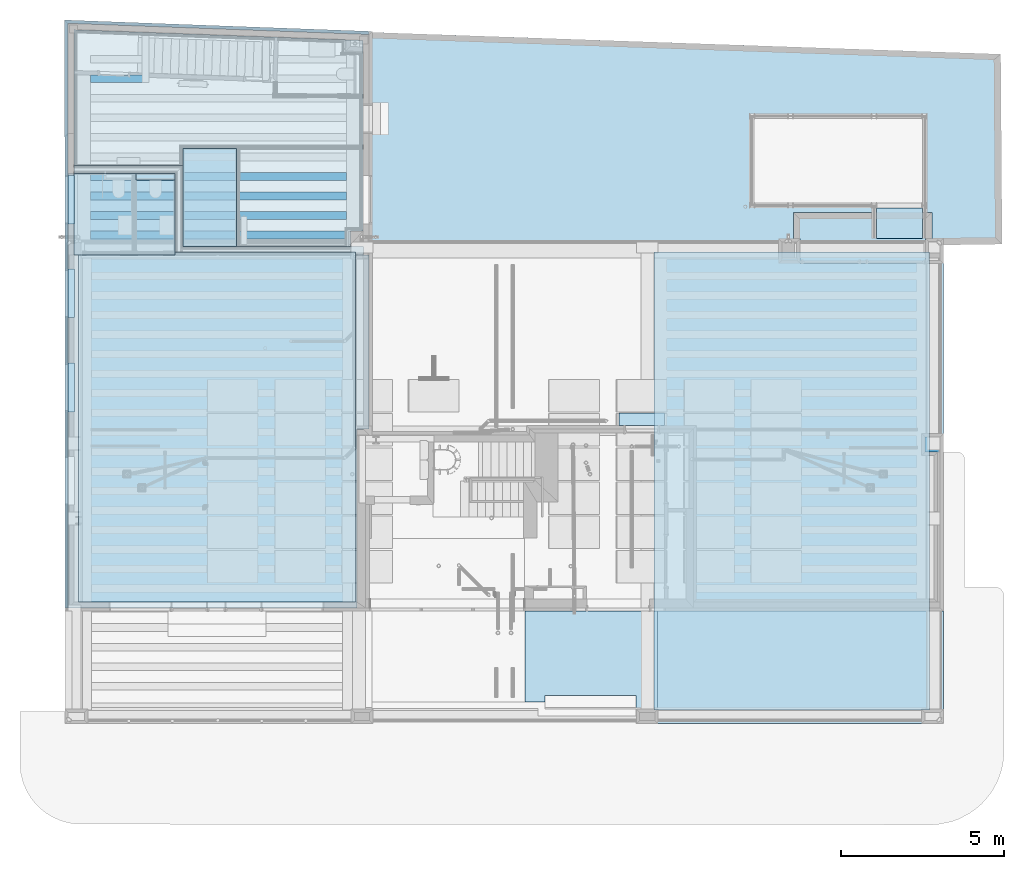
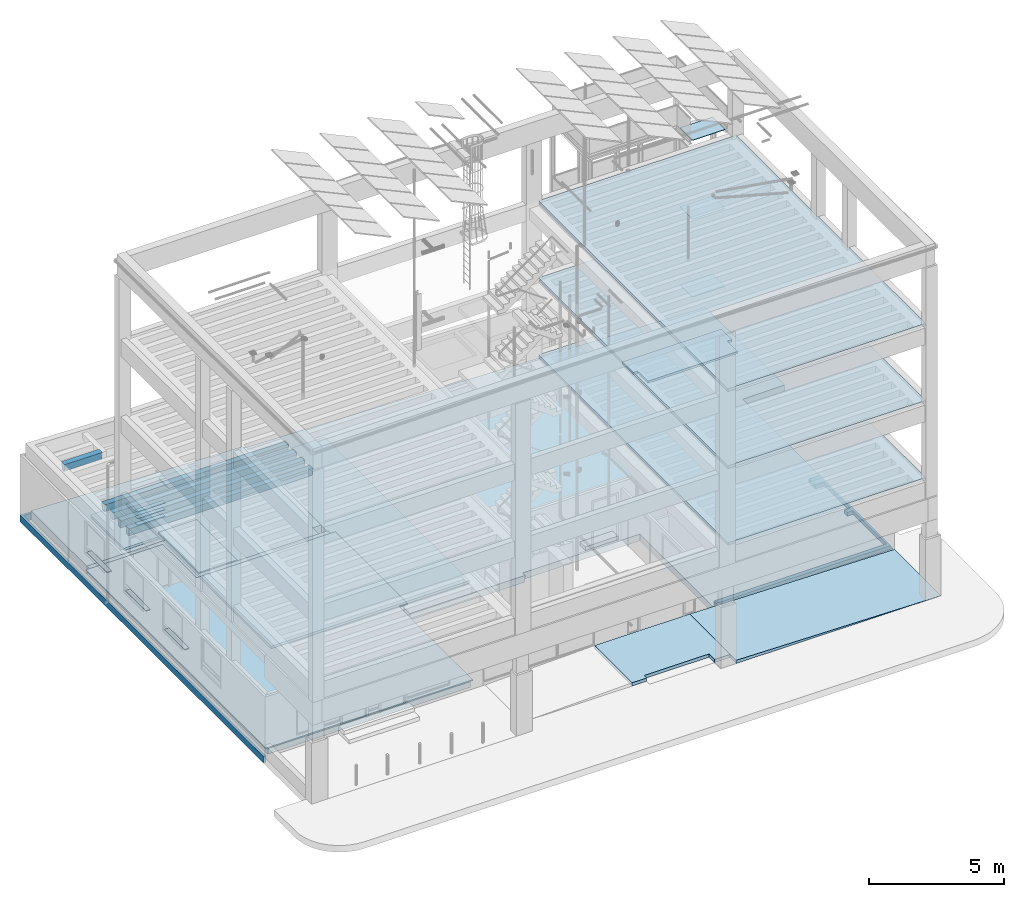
# One storey, part 19 of 108: 37 slabs.
"""IFC2X3 building model written with IfcOpenShell, lengths in metres."""

import ifcopenshell
import ifcopenshell.guid

model = None  # the IFC model being written
_history = None  # IfcOwnerHistory: only IFC2X3 demands one
_inside = {}  # id of a spatial element -> (the spatial element, [elements in it])
_under = {}  # id of a project, library or spatial element -> (it, [spatial elements below it])
_declared = {}  # id of a project -> (the project, [libraries it declares])
_typed = {}  # id of a type object -> (the type object, [elements of that type])
_made_of = {}  # id of a material, layer set ... -> (it, [elements and type objects made of it])


def new_model(schema):
    """Start an empty IFC model of exactly this schema.

    Asked for "IFC4X3", IfcOpenShell would pick the latest addendum, in which some entities
    have other attributes; the version numbers below select the first issue.
    IFC2X3 requires an IfcOwnerHistory on every rooted entity: one is made here for all.
    """
    global model, _history
    if schema == "IFC4X3":
        model = ifcopenshell.file(schema_version=(4, 3, 0, 0))
    else:
        model = ifcopenshell.file(schema=schema)
    _inside.clear()
    _under.clear()
    _declared.clear()
    _typed.clear()
    _made_of.clear()
    _history = None
    if model.schema == "IFC2X3":
        org = make("IfcOrganization", Name="unknown")
        user = make(
            "IfcPersonAndOrganization",
            ThePerson=make("IfcPerson", FamilyName="unknown"),
            TheOrganization=org,
        )
        app = make(
            "IfcApplication",
            ApplicationDeveloper=org,
            Version="unknown",
            ApplicationFullName="unknown",
            ApplicationIdentifier="unknown",
        )
        _history = make(
            "IfcOwnerHistory",
            OwningUser=user,
            OwningApplication=app,
            ChangeAction="ADDED",
            CreationDate=0,
        )
    return model


def make(cls, **values):
    """One entity of the class cls with the attributes given. An attribute that is None is left unset."""
    return model.create_entity(
        cls, **{name: value for name, value in values.items() if value is not None}
    )


def entity(cls, *values):
    """Any entity or typed value of the class cls, its attributes in the order of the schema. None: left unset."""
    e = model.create_entity(cls)
    for i, value in enumerate(values):
        if value is not None:
            e[i] = value
    return e


def rooted(cls, **values):
    """An entity with a GlobalId (a new one), such as an element, a storey or a relation."""
    return make(cls, GlobalId=ifcopenshell.guid.new(), OwnerHistory=_history, **values)


def si_unit(unit_type, name, prefix=None):
    """IfcSIUnit, for example si_unit("LENGTHUNIT", "METRE", prefix="MILLI")."""
    return make("IfcSIUnit", UnitType=unit_type, Prefix=prefix, Name=name)


def converted_unit(unit_type, name, factor, base, dimensions=None, offset=None):
    """IfcConversionBasedUnit, such as the inch: factor (a typed value) times the base unit."""
    return make(
        "IfcConversionBasedUnit"
        if offset is None
        else "IfcConversionBasedUnitWithOffset",
        ConversionOffset=offset,
        Dimensions=None
        if dimensions is None
        else entity("IfcDimensionalExponents", *dimensions),
        UnitType=unit_type,
        Name=name,
        ConversionFactor=make(
            "IfcMeasureWithUnit", ValueComponent=factor, UnitComponent=base
        ),
    )


def derived_unit(unit_type, elements):
    """IfcDerivedUnit: a product of units, each with its exponent."""
    return make(
        "IfcDerivedUnit",
        Elements=[
            make("IfcDerivedUnitElement", Unit=unit, Exponent=power)
            for unit, power in elements
        ],
        UnitType=unit_type,
    )


def money_unit(currency):
    """IfcMonetaryUnit."""
    return make("IfcMonetaryUnit", Currency=currency)


def assignment(units):
    """IfcUnitAssignment: the units of a project."""
    return None if units is None else make("IfcUnitAssignment", Units=units)


def point(xyz):
    """IfcCartesianPoint."""
    return None if xyz is None else make("IfcCartesianPoint", Coordinates=xyz)


def direction(xyz):
    """IfcDirection."""
    return None if xyz is None else make("IfcDirection", DirectionRatios=xyz)


def frame(location, z_axis=None, x_axis=None):
    """IfcAxis2Placement3D, a coordinate frame: its origin and axes. An axis left out is left unset."""
    return make(
        "IfcAxis2Placement3D",
        Location=point(location),
        Axis=direction(z_axis),
        RefDirection=direction(x_axis),
    )


def origin_with_axes():
    """The frame at (0, 0, 0) with the z axis (0, 0, 1) and the x axis (1, 0, 0) written out."""
    return frame((0.0, 0.0, 0.0), z_axis=(0.0, 0.0, 1.0), x_axis=(1.0, 0.0, 0.0))


def place(relative_to, where):
    """IfcLocalPlacement: puts the frame where relative to a parent placement (None: the world)."""
    return make(
        "IfcLocalPlacement", PlacementRelTo=relative_to, RelativePlacement=where
    )


def context(
    kind, dimensions, precision=None, world=None, true_north=None, identifier=None
):
    """IfcGeometricRepresentationContext, for example the 3D "Model" context."""
    return make(
        "IfcGeometricRepresentationContext",
        ContextIdentifier=identifier,
        ContextType=kind,
        CoordinateSpaceDimension=dimensions,
        Precision=precision,
        WorldCoordinateSystem=world,
        TrueNorth=true_north,
    )


def subcontext(parent, identifier, kind, view, scale=None):
    """IfcGeometricRepresentationSubContext, for example "Body" below "Model"."""
    return make(
        "IfcGeometricRepresentationSubContext",
        ContextIdentifier=identifier,
        ContextType=kind,
        ParentContext=parent,
        TargetScale=scale,
        TargetView=view,
    )


def project(units=None, contexts=None):
    """IfcProject with its units and contexts."""
    return rooted(
        "IfcProject",
        Name="project",
        RepresentationContexts=contexts,
        UnitsInContext=assignment(units),
    )


def spatial(cls, under=None, at=None, **own):
    """A site, building, storey or space (cls), placed at a placement, below another one or the project."""
    s = rooted(cls, ObjectPlacement=at, **own)
    if under is not None:
        _under.setdefault(under.id(), (under, []))[1].append(s)
    return s


def faces_of(points, faces, orient=None, outer=None):
    """IfcFace entities. A face is a list of loops; a loop is a list of indices into points, from 0.

    orient and outer hold one flag for each loop. By default every Orientation is true, the
    first loop of a face is its IfcFaceOuterBound and the others are IfcFaceBound.
    """
    made = []
    for i, loops in enumerate(faces):
        bounds = []
        for j, loop in enumerate(loops):
            is_outer = j == 0 if outer is None else outer[i][j]
            bounds.append(
                make(
                    "IfcFaceOuterBound" if is_outer else "IfcFaceBound",
                    Bound=make("IfcPolyLoop", Polygon=[points[k] for k in loop]),
                    Orientation=True if orient is None else orient[i][j],
                )
            )
        made.append(make("IfcFace", Bounds=bounds))
    return made


def faceted_brep(points, faces, orient=None, outer=None, voids=None):
    """IfcFacetedBrep: a solid bounded by flat faces; with voids (closed shells), ...WithVoids."""
    shared = [point(p) for p in points]
    hull = make("IfcClosedShell", CfsFaces=faces_of(shared, faces, orient, outer))
    if voids is None:
        return make("IfcFacetedBrep", Outer=hull)
    return make(
        "IfcFacetedBrepWithVoids",
        Outer=hull,
        Voids=[
            make(cls, CfsFaces=faces_of(shared, fs, o, b)) for cls, fs, o, b in voids
        ],
    )


def shape(context_of_items, identifier, shape_type, items):
    """IfcShapeRepresentation: the items that make up one representation, for example the "Body"."""
    return make(
        "IfcShapeRepresentation",
        ContextOfItems=context_of_items,
        RepresentationIdentifier=identifier,
        RepresentationType=shape_type,
        Items=items,
    )


def material(Name=None, Category=None):
    """IfcMaterial."""
    return make("IfcMaterial", Name=Name, Category=Category)


def made_of(thing, what):
    """Note that an element or type object is made of a material, layer set ...; save() writes the relation."""
    if what is not None:
        _made_of.setdefault(what.id(), (what, []))[1].append(thing)
    return thing


def type_object(cls, material=None, **own):
    """A type object (cls), such as IfcWallType, which elements share."""
    return made_of(rooted(cls, **own), material)


def element(
    cls,
    number,
    at=None,
    inside=None,
    cuts=None,
    type_object=None,
    material=None,
    context=None,
    identifier="Body",
    shape_type=None,
    held_by="IfcProductDefinitionShape",
    body=None,
    shapes=None,
    **own,
):
    """One element of the class cls, such as IfcWall. Its Tag is "e" and its number.

    at: its placement. inside: the storey or other place that contains it. cuts: it is an
    opening in that element (IfcRelVoidsElement). A single representation is given by context,
    identifier, shape_type and body (its items); several are given by shapes. held_by: the class
    of the entity that holds the representations. save() writes the other relations.
    """
    e = rooted(cls, Tag="e%d" % number, ObjectPlacement=at, **own)
    if body is not None:
        shapes = [shape(context, identifier, shape_type, body)]
    if shapes is not None:
        e.Representation = make(held_by, Representations=shapes)
    if inside is not None:
        _inside.setdefault(inside.id(), (inside, []))[1].append(e)
    if cuts is not None:
        rooted(
            "IfcRelVoidsElement", RelatingBuildingElement=cuts, RelatedOpeningElement=e
        )
    if type_object is not None:
        _typed.setdefault(type_object.id(), (type_object, []))[1].append(e)
    return made_of(e, material)


def aggregate(whole, parts):
    """IfcRelAggregates: a whole, such as a stair, and the parts it consists of."""
    return rooted("IfcRelAggregates", RelatingObject=whole, RelatedObjects=parts)


def save(model, path):
    """Write the relations noted so far, then the file.

    IfcRelAggregates (storeys below a building ...), IfcRelContainedInSpatialStructure (elements
    in a storey), IfcRelDefinesByType, IfcRelAssociatesMaterial and IfcRelDeclares: one each for
    every whole, place, type object, material and project.
    """
    for whole, parts in _under.values():
        aggregate(whole, parts)
    for where, things in _inside.values():
        rooted(
            "IfcRelContainedInSpatialStructure",
            RelatedElements=things,
            RelatingStructure=where,
        )
    for kind, things in _typed.values():
        rooted("IfcRelDefinesByType", RelatedObjects=things, RelatingType=kind)
    for what, things in _made_of.values():
        rooted("IfcRelAssociatesMaterial", RelatedObjects=things, RelatingMaterial=what)
    for by, libraries in _declared.values():
        rooted("IfcRelDeclares", RelatingContext=by, RelatedDefinitions=libraries)
    model.write(path)


model = new_model("IFC2X3")

# Units and contexts
model_context = context("Model", 3, precision=1e-05, world=origin_with_axes(), true_north=direction((0.0, 1.0)))
body_context = subcontext(model_context, "Body", "Model", "MODEL_VIEW", scale=1.0)
ifc_project = project(units=[si_unit("LENGTHUNIT", "METRE"), si_unit("AREAUNIT", "SQUARE_METRE"), si_unit("VOLUMEUNIT", "CUBIC_METRE"), si_unit("ABSORBEDDOSEUNIT", "GRAY"), si_unit("AMOUNTOFSUBSTANCEUNIT", "MOLE"), si_unit("DOSEEQUIVALENTUNIT", "SIEVERT"), si_unit("ELECTRICCAPACITANCEUNIT", "FARAD"), si_unit("ELECTRICCHARGEUNIT", "COULOMB"), si_unit("ELECTRICCONDUCTANCEUNIT", "SIEMENS"), si_unit("ELECTRICCURRENTUNIT", "AMPERE"), si_unit("ELECTRICRESISTANCEUNIT", "OHM"), si_unit("ELECTRICVOLTAGEUNIT", "VOLT"), si_unit("ENERGYUNIT", "JOULE"), si_unit("FORCEUNIT", "NEWTON"), si_unit("FREQUENCYUNIT", "HERTZ"), si_unit("ILLUMINANCEUNIT", "LUX"), si_unit("INDUCTANCEUNIT", "HENRY"), si_unit("LUMINOUSFLUXUNIT", "LUMEN"), si_unit("LUMINOUSINTENSITYUNIT", "CANDELA"), si_unit("MAGNETICFLUXDENSITYUNIT", "TESLA"), si_unit("MAGNETICFLUXUNIT", "WEBER"), si_unit("MASSUNIT", "GRAM"), converted_unit("PLANEANGLEUNIT", "degree", entity("IfcReal", 0.0174532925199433), si_unit("PLANEANGLEUNIT", "RADIAN"), dimensions=[0, 0, 0, 0, 0, 0, 0]), si_unit("POWERUNIT", "WATT"), si_unit("PRESSUREUNIT", "PASCAL"), si_unit("RADIOACTIVITYUNIT", "BECQUEREL"), si_unit("SOLIDANGLEUNIT", "STERADIAN"), si_unit("THERMODYNAMICTEMPERATUREUNIT", "KELVIN"), si_unit("TIMEUNIT", "SECOND"), derived_unit("ACCELERATIONUNIT", [(si_unit("LENGTHUNIT", "METRE"), 1), (si_unit("TIMEUNIT", "SECOND"), -2)]), derived_unit("ANGULARVELOCITYUNIT", [(converted_unit("PLANEANGLEUNIT", "degree", entity("IfcReal", 0.0174532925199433), si_unit("PLANEANGLEUNIT", "RADIAN"), dimensions=[0, 0, 0, 0, 0, 0, 0]), 1), (si_unit("TIMEUNIT", "SECOND"), -1)]), derived_unit("CURVATUREUNIT", [(converted_unit("PLANEANGLEUNIT", "degree", entity("IfcReal", 0.0174532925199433), si_unit("PLANEANGLEUNIT", "RADIAN"), dimensions=[0, 0, 0, 0, 0, 0, 0]), 1), (si_unit("LENGTHUNIT", "METRE"), -1)]), derived_unit("DYNAMICVISCOSITYUNIT", [(si_unit("PRESSUREUNIT", "PASCAL"), 1), (si_unit("TIMEUNIT", "SECOND"), 1)]), derived_unit("HEATFLUXDENSITYUNIT", [(si_unit("POWERUNIT", "WATT"), 1), (si_unit("LENGTHUNIT", "METRE"), -2)]), derived_unit("HEATINGVALUEUNIT", [(si_unit("ENERGYUNIT", "JOULE"), 1), (si_unit("MASSUNIT", "GRAM"), -1)]), derived_unit("INTEGERCOUNTRATEUNIT", [(si_unit("TIMEUNIT", "SECOND"), -1)]), derived_unit("IONCONCENTRATIONUNIT", [(si_unit("MASSUNIT", "GRAM"), 1), (si_unit("VOLUMEUNIT", "CUBIC_METRE"), -1)]), derived_unit("ISOTHERMALMOISTURECAPACITYUNIT", [(si_unit("VOLUMEUNIT", "CUBIC_METRE"), 1), (si_unit("MASSUNIT", "GRAM"), -1)]), derived_unit("KINEMATICVISCOSITYUNIT", [(si_unit("AREAUNIT", "SQUARE_METRE"), 1), (si_unit("TIMEUNIT", "SECOND"), -1)]), derived_unit("LINEARFORCEUNIT", [(si_unit("FORCEUNIT", "NEWTON"), 1), (si_unit("LENGTHUNIT", "METRE"), -1)]), derived_unit("LINEARMOMENTUNIT", [(si_unit("FORCEUNIT", "NEWTON"), 1), (si_unit("LENGTHUNIT", "METRE"), -1)]), derived_unit("LINEARSTIFFNESSUNIT", [(si_unit("FORCEUNIT", "NEWTON"), 1), (si_unit("LENGTHUNIT", "METRE"), -1)]), derived_unit("LINEARVELOCITYUNIT", [(si_unit("LENGTHUNIT", "METRE"), 1), (si_unit("TIMEUNIT", "SECOND"), -1)]), derived_unit("LUMINOUSINTENSITYDISTRIBUTIONUNIT", [(si_unit("LUMINOUSINTENSITYUNIT", "CANDELA"), 1), (si_unit("LUMINOUSFLUXUNIT", "LUMEN"), -1)]), derived_unit("MASSDENSITYUNIT", [(si_unit("MASSUNIT", "GRAM"), 1), (si_unit("VOLUMEUNIT", "CUBIC_METRE"), -1)]), derived_unit("MASSFLOWRATEUNIT", [(si_unit("MASSUNIT", "GRAM"), 1), (si_unit("TIMEUNIT", "SECOND"), -1)]), derived_unit("MASSPERLENGTHUNIT", [(si_unit("MASSUNIT", "GRAM"), 1), (si_unit("LENGTHUNIT", "METRE"), -1)]), derived_unit("MODULUSOFELASTICITYUNIT", [(si_unit("FORCEUNIT", "NEWTON"), 1), (si_unit("AREAUNIT", "SQUARE_METRE"), -1)]), derived_unit("MODULUSOFLINEARSUBGRADEREACTIONUNIT", [(si_unit("FORCEUNIT", "NEWTON"), 1), (si_unit("LENGTHUNIT", "METRE"), -2)]), derived_unit("MODULUSOFROTATIONALSUBGRADEREACTIONUNIT", [(si_unit("FORCEUNIT", "NEWTON"), 1), (si_unit("LENGTHUNIT", "METRE"), 1)]), derived_unit("MODULUSOFSUBGRADEREACTIONUNIT", [(si_unit("FORCEUNIT", "NEWTON"), 1), (si_unit("VOLUMEUNIT", "CUBIC_METRE"), -1)]), derived_unit("MOISTUREDIFFUSIVITYUNIT", [(si_unit("VOLUMEUNIT", "CUBIC_METRE"), 1), (si_unit("TIMEUNIT", "SECOND"), -1)]), derived_unit("MOLECULARWEIGHTUNIT", [(si_unit("MASSUNIT", "GRAM"), 1), (si_unit("AMOUNTOFSUBSTANCEUNIT", "MOLE"), -1)]), derived_unit("PLANARFORCEUNIT", [(si_unit("FORCEUNIT", "NEWTON"), 1), (si_unit("LENGTHUNIT", "METRE"), -2)]), derived_unit("ROTATIONALFREQUENCYUNIT", [(si_unit("TIMEUNIT", "SECOND"), -1)]), derived_unit("ROTATIONALMASSUNIT", [(si_unit("MASSUNIT", "GRAM"), 1), (si_unit("LENGTHUNIT", "METRE"), 2)]), derived_unit("ROTATIONALSTIFFNESSUNIT", [(si_unit("FORCEUNIT", "NEWTON"), 1), (si_unit("LENGTHUNIT", "METRE"), 1), (converted_unit("PLANEANGLEUNIT", "degree", entity("IfcReal", 0.0174532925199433), si_unit("PLANEANGLEUNIT", "RADIAN"), dimensions=[0, 0, 0, 0, 0, 0, 0]), -1)]), derived_unit("SECTIONAREAINTEGRALUNIT", [(si_unit("LENGTHUNIT", "METRE"), 5)]), derived_unit("SECTIONMODULUSUNIT", [(si_unit("LENGTHUNIT", "METRE"), 3)]), derived_unit("SHEARMODULUSUNIT", [(si_unit("FORCEUNIT", "NEWTON"), 1), (si_unit("AREAUNIT", "SQUARE_METRE"), -1)]), derived_unit("SOUNDPOWERUNIT", [(si_unit("ENERGYUNIT", "JOULE"), 1), (si_unit("TIMEUNIT", "SECOND"), -1)]), derived_unit("SPECIFICHEATCAPACITYUNIT", [(si_unit("FORCEUNIT", "NEWTON"), 1), (si_unit("MASSUNIT", "GRAM"), -1), (si_unit("THERMODYNAMICTEMPERATUREUNIT", "KELVIN"), -1)]), derived_unit("TEMPERATUREGRADIENTUNIT", [(si_unit("THERMODYNAMICTEMPERATUREUNIT", "KELVIN"), 1), (si_unit("LENGTHUNIT", "METRE"), -1)]), derived_unit("THERMALADMITTANCEUNIT", [(si_unit("POWERUNIT", "WATT"), 1), (si_unit("AREAUNIT", "SQUARE_METRE"), -1), (si_unit("THERMODYNAMICTEMPERATUREUNIT", "KELVIN"), -1)]), derived_unit("THERMALCONDUCTANCEUNIT", [(si_unit("POWERUNIT", "WATT"), 1), (si_unit("LENGTHUNIT", "METRE"), -1), (si_unit("THERMODYNAMICTEMPERATUREUNIT", "KELVIN"), -1)]), derived_unit("THERMALEXPANSIONCOEFFICIENTUNIT", [(si_unit("THERMODYNAMICTEMPERATUREUNIT", "KELVIN"), -1)]), derived_unit("THERMALRESISTANCEUNIT", [(si_unit("AREAUNIT", "SQUARE_METRE"), 1), (si_unit("POWERUNIT", "WATT"), -1)]), derived_unit("THERMALTRANSMITTANCEUNIT", [(si_unit("POWERUNIT", "WATT"), 1), (si_unit("AREAUNIT", "SQUARE_METRE"), -1), (si_unit("THERMODYNAMICTEMPERATUREUNIT", "KELVIN"), -1)]), derived_unit("TORQUEUNIT", [(si_unit("FORCEUNIT", "NEWTON"), 1), (si_unit("LENGTHUNIT", "METRE"), 1)]), derived_unit("VAPORPERMEABILITYUNIT", [(si_unit("MASSUNIT", "GRAM"), 1), (si_unit("TIMEUNIT", "SECOND"), -1)]), derived_unit("VOLUMETRICFLOWRATEUNIT", [(si_unit("VOLUMEUNIT", "CUBIC_METRE"), 1), (si_unit("TIMEUNIT", "SECOND"), -1)]), derived_unit("WARPINGCONSTANTUNIT", [(si_unit("LENGTHUNIT", "METRE"), 6)]), derived_unit("WARPINGMOMENTUNIT", [(si_unit("FORCEUNIT", "NEWTON"), 1), (si_unit("LENGTHUNIT", "METRE"), 2)]), money_unit("GBP")], contexts=[model_context])

# Site, building, storey
site_placement = place(None, origin_with_axes())
site = spatial("IfcSite", under=ifc_project, at=site_placement, Name="Site", CompositionType="ELEMENT")
building_placement = place(site_placement, origin_with_axes())
building = spatial("IfcBuilding", under=site, at=building_placement, Name="Building01", CompositionType="ELEMENT")
storey_placement = place(building_placement, origin_with_axes())
storey = spatial("IfcBuildingStorey", under=building, at=storey_placement, Name="GF", CompositionType="ELEMENT", Elevation=0.0)

# Slabs
ifc_material_1 = material(Name="A_BSUK_Slabs")
slab_type_1 = type_object("IfcSlabType", Name="A-FloorsSlabs A_BSUK_Slabs", PredefinedType="FLOOR")
placement = place(storey_placement, origin_with_axes())
element("IfcSlab", 1, at=placement, inside=storey, type_object=slab_type_1, material=ifc_material_1, Name="A-FloorsSlabs A_BSUK_Slabs", ObjectType="CompoundSlabLeaf", context=body_context, shape_type="Brep", body=[
    faceted_brep([(22.371797, 14.897172, 2.44), (22.371797, 14.897172, 2.54), (22.371797, 15.695023, 2.54), (22.371797, 15.695023, 2.44), (22.571797, 14.897172, 2.44), (22.571797, 14.897172, 2.54), (22.577154, 14.134296, 2.44), (22.577154, 14.134296, 2.54), (26.429722, 14.134126, 2.44), (26.429722, 14.134126, 2.54), (26.429767, 14.906552, 2.44), (26.429767, 14.906552, 2.54), (26.629767, 14.909522, 2.44), (26.629767, 14.909522, 2.54), (26.629738, 15.705087, 2.44), (26.629738, 15.705087, 2.54)], [[[0, 1, 2, 3]], [[4, 5, 1, 0]], [[6, 7, 5, 4]], [[8, 9, 7, 6]], [[10, 11, 9, 8]], [[12, 13, 11, 10]], [[14, 15, 13, 12]], [[3, 2, 15, 14]], [[1, 5, 7, 9, 11, 13, 15, 2]], [[3, 14, 12, 10, 8, 6, 4, 0]]]),
])
element("IfcSlab", 2, at=placement, inside=storey, type_object=slab_type_1, material=ifc_material_1, Name="A-FloorsSlabs A_BSUK_Slabs", ObjectType="CompoundSlabLeaf", context=body_context, shape_type="Brep", body=[
    faceted_brep([(9.343127, 8.87141, -0.46), (9.343127, 8.87141, -0.16), (9.343127, 21.237229, -0.16), (9.343127, 21.237229, -0.46), (14.27235, 8.87141, -0.46), (14.27235, 8.87141, -0.16), (14.27235, 9.053145, -0.46), (14.27235, 9.053145, -0.16), (19.302772, 9.053145, -0.46), (19.302772, 9.053145, -0.16), (19.302772, 3.559165, -0.46), (19.302772, 3.559165, -0.16), (26.98149, 3.559165, -0.46), (26.98149, 3.559165, -0.16), (26.98149, 6.112111, -0.46), (26.98149, 6.112111, -0.16), (26.98149, 6.511753, -0.46), (26.98149, 6.511753, -0.16), (26.98149, 8.237758, -0.46), (26.98149, 8.237758, -0.16), (26.98149, 8.909531, -0.46), (26.98149, 8.909531, -0.16), (26.98149, 14.134296, -0.46), (26.98149, 14.134296, -0.16), (26.981639, 14.134296, -0.46), (26.981639, 14.134296, -0.16), (26.981707, 14.702806, -0.46), (26.981707, 14.702806, -0.16), (28.782327, 14.728819, -0.46), (28.782327, 14.728819, -0.16), (28.739658, 20.563839, -0.46), (28.739658, 20.563839, -0.16)], [[[0, 1, 2, 3]], [[4, 5, 1, 0]], [[6, 7, 5, 4]], [[8, 9, 7, 6]], [[10, 11, 9, 8]], [[12, 13, 11, 10]], [[14, 15, 13, 12]], [[16, 17, 15, 14]], [[18, 19, 17, 16]], [[20, 21, 19, 18]], [[22, 23, 21, 20]], [[24, 25, 23, 22]], [[26, 27, 25, 24]], [[28, 29, 27, 26]], [[30, 31, 29, 28]], [[3, 2, 31, 30]], [[1, 5, 7, 9, 11, 13, 15, 17, 19, 21, 23, 25, 27, 29, 31, 2]], [[3, 30, 28, 26, 24, 22, 20, 18, 16, 14, 12, 10, 8, 6, 4, 0]]]),
])
element("IfcSlab", 3, at=placement, inside=storey, type_object=slab_type_1, material=ifc_material_1, Name="A-FloorsSlabs A_BSUK_Slabs", ObjectType="CompoundSlabLeaf", context=body_context, shape_type="Brep", body=[
    faceted_brep([(19.402776, 3.558962, -0.16), (19.402776, 3.558962, 0.0), (19.402776, 3.733962, 0.0), (19.402776, 3.733962, -0.16), (26.881285, 3.558962, -0.16), (26.881285, 3.558962, 0.0), (26.881285, 8.809531, -0.16), (26.881285, 8.809531, 0.0), (26.414179, 8.809531, -0.16), (26.414179, 8.809531, 0.0), (26.414179, 8.337758, -0.16), (26.414179, 8.337758, 0.0), (26.795161, 8.337758, -0.16), (26.795161, 8.337758, 0.0), (26.795161, 6.411749, -0.16), (26.795161, 6.411749, 0.0), (26.548156, 6.411749, -0.16), (26.548156, 6.411749, 0.0), (26.548156, 6.212116, -0.16), (26.548156, 6.212116, 0.0), (26.795153, 6.212107, -0.16), (26.795153, 6.212107, 0.0), (26.795285, 3.733574, -0.16), (26.795285, 3.733574, 0.0)], [[[0, 1, 2, 3]], [[4, 5, 1, 0]], [[6, 7, 5, 4]], [[8, 9, 7, 6]], [[10, 11, 9, 8]], [[12, 13, 11, 10]], [[14, 15, 13, 12]], [[16, 17, 15, 14]], [[18, 19, 17, 16]], [[20, 21, 19, 18]], [[22, 23, 21, 20]], [[3, 2, 23, 22]], [[1, 5, 7, 9, 11, 13, 15, 17, 19, 21, 23, 2]], [[3, 22, 20, 18, 16, 14, 12, 10, 8, 6, 4, 0]]]),
])
element("IfcSlab", 4, at=placement, inside=storey, type_object=slab_type_1, material=ifc_material_1, Name="A-FloorsSlabs A_BSUK_Slabs", ObjectType="CompoundSlabLeaf", context=body_context, shape_type="Brep", body=[
    faceted_brep([(14.124099, 0.672774, -0.145), (14.124099, 0.672774, 0.0), (14.124099, 3.458986, 0.0), (14.124099, 3.458986, -0.145), (14.745621, 0.672774, -0.145), (14.745621, 0.672774, 0.0), (14.745621, 0.858775, -0.145), (14.745621, 0.858775, 0.0), (17.533227, 0.858775, -0.145), (17.533227, 0.858775, 0.0), (17.533227, 0.449009, -0.145), (17.533227, 0.449009, 0.0), (18.19829, 0.449009, -0.145), (18.19829, 0.449009, 0.0), (18.19829, 3.458834, -0.145), (18.19829, 3.458834, 0.0)], [[[0, 1, 2, 3]], [[4, 5, 1, 0]], [[6, 7, 5, 4]], [[8, 9, 7, 6]], [[10, 11, 9, 8]], [[12, 13, 11, 10]], [[14, 15, 13, 12]], [[3, 2, 15, 14]], [[1, 5, 7, 9, 11, 13, 15, 2]], [[3, 14, 12, 10, 8, 6, 4, 0]]]),
])
element("IfcSlab", 5, at=placement, inside=storey, type_object=slab_type_1, material=ifc_material_1, Name="A-FloorsSlabs A_BSUK_Slabs", ObjectType="CompoundSlabLeaf", context=body_context, shape_type="Brep", body=[
    faceted_brep([(18.19829, 3.458341, -0.145), (18.19829, -0.000659, -0.145), (18.19829, -0.000659, 0.0), (18.19829, 3.458341, 0.0), (26.981285, 3.458341, -0.145), (26.981285, -0.000659, -0.145)], [[[0, 1, 2, 3]], [[4, 5, 1, 0]], [[3, 2, 5, 4]], [[1, 5, 2]], [[3, 4, 0]]]),
])
element("IfcSlab", 6, at=placement, inside=storey, type_object=slab_type_1, material=ifc_material_1, Name="A-FloorsSlabs A_BSUK_Slabs", ObjectType="CompoundSlabLeaf", context=body_context, shape_type="Brep", body=[
    faceted_brep([(3.380525, 14.4, 0.148), (3.380525, 14.4, 0.198), (9.343127, 14.4, 0.198), (9.343127, 14.4, 0.148), (3.380525, 16.893628, 0.148), (3.380525, 16.893628, 0.198), (0.089614, 16.893493, 0.148), (0.089614, 16.893493, 0.198), (0.10035, 3.559332, 0.148), (0.10035, 3.559332, 0.198), (8.965099, 3.559165, 0.148), (8.965099, 3.559165, 0.198), (8.965226, 9.049365, 0.148), (8.965226, 9.049365, 0.198), (9.343127, 9.049365, 0.148), (9.343127, 9.049365, 0.198)], [[[0, 1, 2, 3]], [[4, 5, 1, 0]], [[6, 7, 5, 4]], [[8, 9, 7, 6]], [[10, 11, 9, 8]], [[12, 13, 11, 10]], [[14, 15, 13, 12]], [[3, 2, 15, 14]], [[1, 5, 7, 9, 11, 13, 15, 2]], [[3, 14, 12, 10, 8, 6, 4, 0]]]),
])
element("IfcSlab", 7, at=placement, inside=storey, type_object=slab_type_1, material=ifc_material_1, Name="A-FloorsSlabs A_BSUK_Slabs", ObjectType="CompoundSlabLeaf", context=body_context, shape_type="Brep", body=[
    faceted_brep([(9.343265, 21.237229, -0.445), (9.343265, 21.237229, -0.145), (9.343265, 21.166058, -0.145), (9.343265, 21.166058, -0.445), (9.343127, 21.237229, -0.445), (9.343127, 21.237229, -0.145), (9.4435, 21.262408, -0.445), (9.4435, 21.262408, -0.145), (-0.013684, 21.61325, -0.445), (-0.013684, 21.61325, -0.145), (-0.013684, 18.020229, -0.445), (-0.013684, 18.020229, -0.145), (0.000677, 18.020229, -0.445), (0.000677, 18.020229, -0.145), (-0.000238, 3.559142, -0.445), (-0.000238, 3.559142, -0.145), (0.10035, 3.559332, -0.445), (0.10035, 3.559332, -0.145), (0.085897, 21.509487, -0.445), (0.085897, 21.509487, -0.145)], [[[0, 1, 2, 3]], [[4, 5, 1, 0]], [[6, 7, 5, 4]], [[8, 9, 7, 6]], [[10, 11, 9, 8]], [[12, 13, 11, 10]], [[14, 15, 13, 12]], [[16, 17, 15, 14]], [[18, 19, 17, 16]], [[3, 2, 19, 18]], [[1, 5, 7, 9, 11, 13, 15, 17, 19, 2]], [[3, 18, 16, 14, 12, 10, 8, 6, 4, 0]]]),
])
element("IfcSlab", 8, at=placement, inside=storey, type_object=slab_type_1, material=ifc_material_1, Name="A-FloorsSlabs A_BSUK_Slabs", ObjectType="CompoundSlabLeaf", context=body_context, shape_type="Brep", body=[
    faceted_brep([(17.018566, 9.152854, -0.16), (17.018566, 9.152854, 0.0), (17.018566, 9.542818, 0.0), (17.018566, 9.542818, -0.16), (18.418566, 9.152854, -0.16), (18.418566, 9.152854, 0.0), (18.418566, 9.542765, -0.16), (18.418566, 9.542765, 0.0)], [[[0, 1, 2, 3]], [[4, 5, 1, 0]], [[6, 7, 5, 4]], [[3, 2, 7, 6]], [[1, 5, 7, 2]], [[3, 6, 4, 0]]]),
])
ifc_material_2 = material(Name="A_BSUK_Ceramic_WallTiles")
element("IfcSlab", 9, at=placement, inside=storey, type_object=slab_type_1, material=ifc_material_2, Name="A-FloorsSlabs A_BSUK_Slabs", ObjectType="CompoundSlabLeaf", context=body_context, shape_type="Brep", body=[
    faceted_brep([(2.180525, 16.693646, 1.873), (2.180525, 16.693646, 1.898), (2.180525, 16.893647, 1.898), (2.180525, 16.893647, 1.873), (3.380525, 16.69365, 1.873), (3.380525, 16.69365, 1.898), (3.380525, 16.893646, 1.873), (3.380525, 16.893646, 1.898)], [[[0, 1, 2, 3]], [[4, 5, 1, 0]], [[6, 7, 5, 4]], [[3, 2, 7, 6]], [[1, 5, 7, 2]], [[3, 6, 4, 0]]]),
])
element("IfcSlab", 10, at=placement, inside=storey, type_object=slab_type_1, material=ifc_material_2, Name="A-FloorsSlabs A_BSUK_Slabs", ObjectType="CompoundSlabLeaf", context=body_context, shape_type="Brep", body=[
    faceted_brep([(2.180525, 16.693646, 2.173), (2.180525, 16.693646, 2.198), (2.180525, 16.893647, 2.198), (2.180525, 16.893647, 2.173), (3.380525, 16.69365, 2.173), (3.380525, 16.69365, 2.198), (3.380525, 16.893646, 2.173), (3.380525, 16.893646, 2.198)], [[[0, 1, 2, 3]], [[4, 5, 1, 0]], [[6, 7, 5, 4]], [[3, 2, 7, 6]], [[1, 5, 7, 2]], [[3, 6, 4, 0]]]),
])
element("IfcSlab", 11, at=placement, inside=storey, type_object=slab_type_1, material=ifc_material_1, Name="A-FloorsSlabs A_BSUK_Slabs", ObjectType="CompoundSlabLeaf", context=body_context, shape_type="Brep", body=[
    faceted_brep([(0.28086, 17.143647, -0.252), (0.28086, 17.143647, 0.128), (0.280897, 21.315124, 0.128), (0.280897, 21.315124, -0.252), (3.630525, 17.143618, -0.252), (3.630525, 17.143618, 0.128), (3.630503, 14.65, -0.252), (3.630503, 14.65, 0.128), (8.775264, 14.649955, -0.252), (8.775264, 14.649955, 0.128), (8.775269, 15.127892, -0.252), (8.775269, 15.127892, 0.128), (9.154265, 15.127888, -0.252), (9.154265, 15.127888, 0.128), (9.154317, 20.985941, -0.252), (9.154317, 20.985941, 0.128)], [[[0, 1, 2, 3]], [[4, 5, 1, 0]], [[6, 7, 5, 4]], [[8, 9, 7, 6]], [[10, 11, 9, 8]], [[12, 13, 11, 10]], [[14, 15, 13, 12]], [[3, 2, 15, 14]], [[1, 5, 7, 9, 11, 13, 15, 2]], [[3, 14, 12, 10, 8, 6, 4, 0]]]),
])
element("IfcSlab", 12, at=placement, inside=storey, type_object=slab_type_1, material=ifc_material_1, Name="A-FloorsSlabs A_BSUK_Slabs", ObjectType="CompoundSlabLeaf", context=body_context, shape_type="Brep", body=[
    faceted_brep([(0.280357, 3.733332, -0.252), (0.280357, 3.733332, 0.148), (0.280357, 17.143647, 0.148), (0.280357, 17.143647, -0.252), (8.965501, 3.733332, -0.252), (8.965501, 3.733332, 0.148), (8.965501, 9.035141, -0.252), (8.965501, 9.035141, 0.148), (9.173127, 9.035141, -0.252), (9.173127, 9.035141, 0.148), (9.173127, 14.65, -0.252), (9.173127, 14.65, 0.148), (3.630525, 14.65, -0.252), (3.630525, 14.65, 0.148), (3.630525, 17.143647, -0.252), (3.630525, 17.143647, 0.148)], [[[0, 1, 2, 3]], [[4, 5, 1, 0]], [[6, 7, 5, 4]], [[8, 9, 7, 6]], [[10, 11, 9, 8]], [[12, 13, 11, 10]], [[14, 15, 13, 12]], [[3, 2, 15, 14]], [[1, 5, 7, 9, 11, 13, 15, 2]], [[3, 14, 12, 10, 8, 6, 4, 0]]]),
])
ifc_material_3 = material(Name="A_BSUK_Parquet_Floor")
element("IfcSlab", 13, at=placement, inside=storey, type_object=slab_type_1, material=ifc_material_3, Name="A-FloorsSlabs A_BSUK_Slabs", ObjectType="CompoundSlabLeaf", context=body_context, shape_type="Brep", body=[
    faceted_brep([(3.630525, 17.663571, 0.178), (3.630525, 17.663571, 0.19), (5.274256, 17.663571, 0.19), (5.274256, 17.663571, 0.178), (3.630525, 14.65, 0.178), (3.630525, 14.65, 0.19), (5.274256, 14.65, 0.178), (5.274256, 14.65, 0.19)], [[[0, 1, 2, 3]], [[4, 5, 1, 0]], [[6, 7, 5, 4]], [[3, 2, 7, 6]], [[1, 5, 7, 2]], [[3, 6, 4, 0]]]),
])
element("IfcSlab", 14, at=placement, inside=storey, type_object=slab_type_1, material=ifc_material_1, Name="A-FloorsSlabs A_BSUK_Slabs", ObjectType="CompoundSlabLeaf", context=body_context, shape_type="Brep", body=[
    faceted_brep([(0.42, 14.477504, 4.46), (0.42, 14.477504, 4.475), (8.925, 14.48, 4.475), (8.925, 14.48, 4.46), (0.42, 3.734123, 4.46), (0.42, 3.734123, 4.475), (8.925, 3.733962, 4.46), (8.925, 3.733962, 4.475), (8.925127, 9.049365, 4.46), (8.925127, 9.049365, 4.475), (8.925, 9.049365, 4.46), (8.925, 9.049365, 4.475)], [[[0, 1, 2, 3]], [[4, 5, 1, 0]], [[6, 7, 5, 4]], [[8, 9, 7, 6]], [[10, 11, 9, 8]], [[3, 2, 11, 10]], [[1, 5, 7, 9, 11, 2]], [[3, 10, 8, 6, 4, 0]]]),
])
element("IfcSlab", 15, at=placement, inside=storey, type_object=slab_type_1, material=ifc_material_1, Name="A-FloorsSlabs A_BSUK_Slabs", ObjectType="CompoundSlabLeaf", context=body_context, shape_type="Brep", body=[
    faceted_brep([(0.42, 14.48, 4.475), (0.42, 14.48, 4.49), (8.925, 14.48, 4.49), (8.925, 14.48, 4.475), (0.42, 3.734123, 4.475), (0.42, 3.734123, 4.49), (8.925, 3.733962, 4.475), (8.925, 3.733962, 4.49), (8.925127, 9.049365, 4.475), (8.925127, 9.049365, 4.49), (8.925, 9.049365, 4.475), (8.925, 9.049365, 4.49)], [[[0, 1, 2, 3]], [[4, 5, 1, 0]], [[6, 7, 5, 4]], [[8, 9, 7, 6]], [[10, 11, 9, 8]], [[3, 2, 11, 10]], [[1, 5, 7, 9, 11, 2]], [[3, 10, 8, 6, 4, 0]]]),
])
element("IfcSlab", 16, at=placement, inside=storey, type_object=slab_type_1, material=ifc_material_1, Name="A-FloorsSlabs A_BSUK_Slabs", ObjectType="CompoundSlabLeaf", context=body_context, shape_type="Brep", body=[
    faceted_brep([(3.380525, 16.893628, 2.495), (3.380525, 16.893628, 2.51), (3.380525, 14.4, 2.51), (3.380525, 14.4, 2.495), (0.280851, 16.893647, 2.495), (0.280851, 16.893647, 2.51), (0.280357, 14.4, 2.495), (0.280357, 14.4, 2.51)], [[[0, 1, 2, 3]], [[4, 5, 1, 0]], [[6, 7, 5, 4]], [[3, 2, 7, 6]], [[1, 5, 7, 2]], [[3, 6, 4, 0]]]),
])
element("IfcSlab", 17, at=placement, inside=storey, type_object=slab_type_1, material=ifc_material_1, Name="A-FloorsSlabs A_BSUK_Slabs", ObjectType="CompoundSlabLeaf", context=body_context, shape_type="Brep", body=[
    faceted_brep([(3.380525, 16.893628, 2.51), (3.380525, 16.893628, 2.525), (3.380525, 14.4, 2.525), (3.380525, 14.4, 2.51), (0.280851, 16.893647, 2.51), (0.280851, 16.893647, 2.525), (0.280757, 14.4, 2.51), (0.280757, 14.4, 2.525)], [[[0, 1, 2, 3]], [[4, 5, 1, 0]], [[6, 7, 5, 4]], [[3, 2, 7, 6]], [[1, 5, 7, 2]], [[3, 6, 4, 0]]]),
])
ifc_material_4 = material(Name="A_BSUK_CeilingSoffitFinishes_Suspended")
element("IfcSlab", 18, at=placement, inside=storey, type_object=slab_type_1, material=ifc_material_4, Name="A-FloorsSlabs A_BSUK_Slabs", ObjectType="CompoundSlabLeaf", context=body_context, shape_type="Brep", body=[
    faceted_brep([(3.630525, 17.663571, 2.6125), (3.630525, 17.663571, 2.625), (5.274256, 17.663571, 2.625), (5.274256, 17.663571, 2.6125), (3.630525, 14.65, 2.6125), (3.630525, 14.65, 2.625), (5.274256, 14.65, 2.6125), (5.274256, 14.65, 2.625)], [[[0, 1, 2, 3]], [[4, 5, 1, 0]], [[6, 7, 5, 4]], [[3, 2, 7, 6]], [[1, 5, 7, 2]], [[3, 6, 4, 0]]]),
])
ifc_material_5 = material(Name="A_BSUK_Timber_Miscellaneous")
element("IfcSlab", 19, at=placement, inside=storey, type_object=slab_type_1, material=ifc_material_5, Name="A-FloorsSlabs A_BSUK_Slabs", ObjectType="CompoundSlabLeaf", context=body_context, shape_type="Brep", body=[
    faceted_brep([(0.100088, 16.844813, 0.998), (0.100088, 16.844813, 1.023), (0.287079, 16.844813, 1.023), (0.287079, 16.844813, 0.998), (0.100088, 15.344813, 0.998), (0.100088, 15.344813, 1.023), (0.287079, 15.344813, 0.998), (0.287079, 15.344813, 1.023)], [[[0, 1, 2, 3]], [[4, 5, 1, 0]], [[6, 7, 5, 4]], [[3, 2, 7, 6]], [[1, 5, 7, 2]], [[3, 6, 4, 0]]]),
])
element("IfcSlab", 20, at=placement, inside=storey, type_object=slab_type_1, material=ifc_material_5, Name="A-FloorsSlabs A_BSUK_Slabs", ObjectType="CompoundSlabLeaf", context=body_context, shape_type="Brep", body=[
    faceted_brep([(0.100088, 13.971016, 0.998), (0.100088, 13.971016, 1.023), (0.287079, 13.971016, 1.023), (0.287079, 13.971016, 0.998), (0.100088, 12.471016, 0.998), (0.100088, 12.471016, 1.023), (0.287079, 12.471016, 0.998), (0.287079, 12.471016, 1.023)], [[[0, 1, 2, 3]], [[4, 5, 1, 0]], [[6, 7, 5, 4]], [[3, 2, 7, 6]], [[1, 5, 7, 2]], [[3, 6, 4, 0]]]),
])
element("IfcSlab", 21, at=placement, inside=storey, type_object=slab_type_1, material=ifc_material_5, Name="A-FloorsSlabs A_BSUK_Slabs", ObjectType="CompoundSlabLeaf", context=body_context, shape_type="Brep", body=[
    faceted_brep([(0.100088, 11.077491, 0.998), (0.100088, 11.077491, 1.023), (0.287079, 11.077491, 1.023), (0.287079, 11.077491, 0.998), (0.100088, 9.577491, 0.998), (0.100088, 9.577491, 1.023), (0.287079, 9.577491, 0.998), (0.287079, 9.577491, 1.023)], [[[0, 1, 2, 3]], [[4, 5, 1, 0]], [[6, 7, 5, 4]], [[3, 2, 7, 6]], [[1, 5, 7, 2]], [[3, 6, 4, 0]]]),
])
for number, where, z_axis, x_axis, name in (
    (22, (0.845327, 15.490006, 3.015), (0.0, 0.0, 1.0), (1.0, 0.0, 0.0), "A-FloorsSlabs A_BSUK_Slabs"),
    (23, (0.845327, 14.890006, 3.015), (0.0, 0.0, 1.0), (1.0, 0.0, 0.0), "A-FloorsSlabs A_BSUK_Slabs"),
    (24, (0.845327, 16.090006, 3.015), (0.0, 0.0, 1.0), (1.0, 0.0, 0.0), "A-FloorsSlabs A_BSUK_Slabs"),
    (25, (0.845327, 16.690006, 3.015), (0.0, 0.0, 1.0), (1.0, 0.0, 0.0), "A-FloorsSlabs A_BSUK_Slabs"),
):
    element("IfcSlab", number, at=place(storey_placement, frame(where, z_axis=z_axis, x_axis=x_axis)), inside=storey, type_object=slab_type_1, material=ifc_material_1, Name=name, ObjectType="A-FloorsSlabs A_BSUK_Slabs", context=body_context, shape_type="Brep", body=[
        faceted_brep([(-0.054648, 0.048571, -0.34), (7.807711, 0.048571, -0.34), (7.807711, 0.0, 0.0), (-0.054648, 0.0, 0.0), (-0.054648, 0.191429, -0.34), (7.807711, 0.191429, -0.34), (-0.054648, 0.24, 0.0), (7.807711, 0.24, 0.0)], [[[0, 1, 2, 3]], [[4, 5, 1, 0]], [[6, 7, 5, 4]], [[3, 2, 7, 6]], [[1, 5, 7, 2]], [[3, 6, 4, 0]]]),
    ])
slab_22_placement = place(storey_placement, frame((-4.445914, 19.690006, 3.015), z_axis=(0.0, 0.0, 1.0), x_axis=(1.0, 0.0, 0.0)))
element("IfcSlab", 26, at=slab_22_placement, inside=storey, type_object=slab_type_1, material=ifc_material_1, Name="A-FloorsSlabs A_BSUK_Slabs", ObjectType="A-FloorsSlabs A_BSUK_Slabs", context=body_context, shape_type="Brep", body=[
    faceted_brep([(5.236593, 0.048571, -0.34), (6.85867, 0.048571, -0.34), (6.85867, 0.0, 0.0), (5.236593, 0.0, 0.0), (5.236593, 0.191429, -0.34), (6.85867, 0.191429, -0.34), (5.236593, 0.24, 0.0), (6.85867, 0.24, 0.0)], [[[0, 1, 2, 3]], [[4, 5, 1, 0]], [[6, 7, 5, 4]], [[3, 2, 7, 6]], [[1, 5, 7, 2]], [[3, 6, 4, 0]]]),
])
element("IfcSlab", 27, at=placement, inside=storey, type_object=slab_type_1, material=ifc_material_1, Name="A-FloorsSlabs A_BSUK_Slabs", ObjectType="CompoundSlabLeaf", context=body_context, shape_type="Brep", body=[
    faceted_brep([(18.085, 14.48, 8.47), (18.085, 14.48, 8.59), (26.56, 14.48, 8.59), (26.56, 14.48, 8.47), (18.085, 0.42, 8.47), (18.085, 0.42, 8.59), (26.56, 0.42, 8.47), (26.56, 0.42, 8.59)], [[[0, 1, 2, 3]], [[4, 5, 1, 0]], [[6, 7, 5, 4]], [[3, 2, 7, 6]], [[1, 5, 7, 2]], [[3, 6, 4, 0]]]),
])
element("IfcSlab", 28, at=placement, inside=storey, type_object=slab_type_1, material=ifc_material_1, Name="A-FloorsSlabs A_BSUK_Slabs", ObjectType="CompoundSlabLeaf", context=body_context, shape_type="Brep", body=[
    faceted_brep([(18.085, 14.48, 11.96), (18.085, 14.48, 12.08), (26.56, 14.48, 12.08), (26.56, 14.48, 11.96), (18.085, 0.42, 11.96), (18.085, 0.42, 12.08), (26.56, 0.42, 11.96), (26.56, 0.42, 12.08)], [[[0, 1, 2, 3]], [[4, 5, 1, 0]], [[6, 7, 5, 4]], [[3, 2, 7, 6]], [[1, 5, 7, 2]], [[3, 6, 4, 0]]]),
])
element("IfcSlab", 29, at=placement, inside=storey, type_object=slab_type_1, material=ifc_material_1, Name="A-FloorsSlabs A_BSUK_Slabs", ObjectType="CompoundSlabLeaf", context=body_context, shape_type="Brep", body=[
    faceted_brep([(18.085, 14.48, 4.98), (18.085, 14.48, 5.1), (26.56, 14.48, 5.1), (26.56, 14.48, 4.98), (18.085, 0.42, 4.98), (18.085, 0.42, 5.1), (26.56, 0.42, 4.98), (26.56, 0.42, 5.1)], [[[0, 1, 2, 3]], [[4, 5, 1, 0]], [[6, 7, 5, 4]], [[3, 2, 7, 6]], [[1, 5, 7, 2]], [[3, 6, 4, 0]]]),
])
ifc_material_6 = material(Name="A_BSUK_StainlessSteelRailingSystems")
element("IfcSlab", 30, at=placement, inside=storey, type_object=slab_type_1, material=ifc_material_6, Name="A-FloorsSlabs A_BSUK_Slabs", ObjectType="CompoundSlabLeaf", context=body_context, shape_type="Brep", body=[
    faceted_brep([(24.927235, 15.837181, 8.567442), (24.927235, 15.837181, 8.587442), (26.332635, 15.837181, 8.587442), (26.332635, 15.837181, 8.567442), (24.927235, 14.9, 8.567442), (24.927235, 14.9, 8.587442), (26.332635, 14.9, 8.567442), (26.332635, 14.9, 8.587442)], [[[0, 1, 2, 3]], [[4, 5, 1, 0]], [[6, 7, 5, 4]], [[3, 2, 7, 6]], [[1, 5, 7, 2]], [[3, 6, 4, 0]]]),
])
element("IfcSlab", 31, at=placement, inside=storey, type_object=slab_type_1, material=ifc_material_6, Name="A-FloorsSlabs A_BSUK_Slabs", ObjectType="CompoundSlabLeaf", context=body_context, shape_type="Brep", body=[
    faceted_brep([(24.927235, 15.837181, 12.151013), (24.927235, 15.837181, 12.171013), (26.332635, 15.837181, 12.171013), (26.332635, 15.837181, 12.151013), (24.927235, 14.9, 12.151013), (24.927235, 14.9, 12.171013), (26.332635, 14.9, 12.151013), (26.332635, 14.9, 12.171013)], [[[0, 1, 2, 3]], [[4, 5, 1, 0]], [[6, 7, 5, 4]], [[3, 2, 7, 6]], [[1, 5, 7, 2]], [[3, 6, 4, 0]]]),
])
element("IfcSlab", 32, at=placement, inside=storey, type_object=slab_type_1, material=ifc_material_6, Name="A-FloorsSlabs A_BSUK_Slabs", ObjectType="CompoundSlabLeaf", context=body_context, shape_type="Brep", body=[
    faceted_brep([(24.927235, 15.837181, 5.044467), (24.927235, 15.837181, 5.064467), (26.332635, 15.837181, 5.064467), (26.332635, 15.837181, 5.044467), (24.927235, 14.9, 5.044467), (24.927235, 14.9, 5.064467), (26.332635, 14.9, 5.044467), (26.332635, 14.9, 5.064467)], [[[0, 1, 2, 3]], [[4, 5, 1, 0]], [[6, 7, 5, 4]], [[3, 2, 7, 6]], [[1, 5, 7, 2]], [[3, 6, 4, 0]]]),
])
ifc_material_7 = material(Name="A_BSUK_Ceramic_FloorTiles")
slab_type_2 = type_object("IfcSlabType", Name="A-Finishes A_BSUK_Ceramic_FloorTiles", PredefinedType="FLOOR")
element("IfcSlab", 33, at=placement, inside=storey, type_object=slab_type_2, material=ifc_material_7, Name="A-Finishes A_BSUK_Ceramic_FloorTiles", ObjectType="CompoundSlabLeaf", context=body_context, shape_type="Brep", body=[
    faceted_brep([(2.180525, 16.693646, 1.573), (2.180525, 16.693646, 1.598), (2.180525, 16.893647, 1.598), (2.180525, 16.893647, 1.573), (3.380525, 16.69365, 1.573), (3.380525, 16.69365, 1.598), (3.380525, 16.893646, 1.573), (3.380525, 16.893646, 1.598)], [[[0, 1, 2, 3]], [[4, 5, 1, 0]], [[6, 7, 5, 4]], [[3, 2, 7, 6]], [[1, 5, 7, 2]], [[3, 6, 4, 0]]]),
])
ifc_material_8 = material(Name="A_BSUK_ExpandedPolystyreneBoards")
slab_type_3 = type_object("IfcSlabType", Name="A-FloorsSlabs A_BSUK_ExpandedPolystyreneBoards", PredefinedType="FLOOR")
element("IfcSlab", 34, at=placement, inside=storey, type_object=slab_type_3, material=ifc_material_8, Name="A-FloorsSlabs A_BSUK_ExpandedPolystyreneBoards", ObjectType="CompoundSlabLeaf", context=body_context, shape_type="Brep", body=[
    faceted_brep([(3.630525, 17.663571, 0.128), (3.630525, 17.663571, 0.178), (5.274256, 17.663571, 0.178), (5.274256, 17.663571, 0.128), (3.630525, 14.65, 0.128), (3.630525, 14.65, 0.178), (5.274256, 14.65, 0.128), (5.274256, 14.65, 0.178)], [[[0, 1, 2, 3]], [[4, 5, 1, 0]], [[6, 7, 5, 4]], [[3, 2, 7, 6]], [[1, 5, 7, 2]], [[3, 6, 4, 0]]]),
])
element("IfcSlab", 35, at=placement, inside=storey, type_object=slab_type_3, material=ifc_material_8, Name="A-FloorsSlabs A_BSUK_ExpandedPolystyreneBoards", ObjectType="CompoundSlabLeaf", context=body_context, shape_type="Brep", body=[
    faceted_brep([(0.42, 14.48, 4.49), (0.42, 14.48, 4.59), (8.925, 14.48, 4.59), (8.925, 14.48, 4.49), (0.42, 3.734123, 4.49), (0.42, 3.734123, 4.59), (8.925, 3.733962, 4.49), (8.925, 3.733962, 4.59), (8.925127, 9.049365, 4.49), (8.925127, 9.049365, 4.59), (8.925, 9.049365, 4.49), (8.925, 9.049365, 4.59)], [[[0, 1, 2, 3]], [[4, 5, 1, 0]], [[6, 7, 5, 4]], [[8, 9, 7, 6]], [[10, 11, 9, 8]], [[3, 2, 11, 10]], [[1, 5, 7, 9, 11, 2]], [[3, 10, 8, 6, 4, 0]]]),
])
element("IfcSlab", 36, at=placement, inside=storey, type_object=slab_type_3, material=ifc_material_8, Name="A-FloorsSlabs A_BSUK_ExpandedPolystyreneBoards", ObjectType="CompoundSlabLeaf", context=body_context, shape_type="Brep", body=[
    faceted_brep([(3.380525, 16.893628, 2.525), (3.380525, 16.893628, 2.625), (3.380525, 14.4, 2.625), (3.380525, 14.4, 2.525), (0.280851, 16.893647, 2.525), (0.280851, 16.893647, 2.625), (0.280757, 14.397504, 2.525), (0.280757, 14.397504, 2.625)], [[[0, 1, 2, 3]], [[4, 5, 1, 0]], [[6, 7, 5, 4]], [[3, 2, 7, 6]], [[1, 5, 7, 2]], [[3, 6, 4, 0]]]),
])
element("IfcSlab", 37, at=placement, inside=storey, type_object=slab_type_3, material=ifc_material_8, Name="A-FloorsSlabs A_BSUK_ExpandedPolystyreneBoards", ObjectType="CompoundSlabLeaf", context=body_context, shape_type="Brep", body=[
    faceted_brep([(3.630525, 17.663571, 2.625), (3.630525, 17.663571, 2.675), (5.274256, 17.663571, 2.675), (5.274256, 17.663571, 2.625), (3.630525, 14.65, 2.625), (3.630525, 14.65, 2.675), (5.274256, 14.65, 2.625), (5.274256, 14.65, 2.675)], [[[0, 1, 2, 3]], [[4, 5, 1, 0]], [[6, 7, 5, 4]], [[3, 2, 7, 6]], [[1, 5, 7, 2]], [[3, 6, 4, 0]]]),
])

save(model, "model.ifc")
